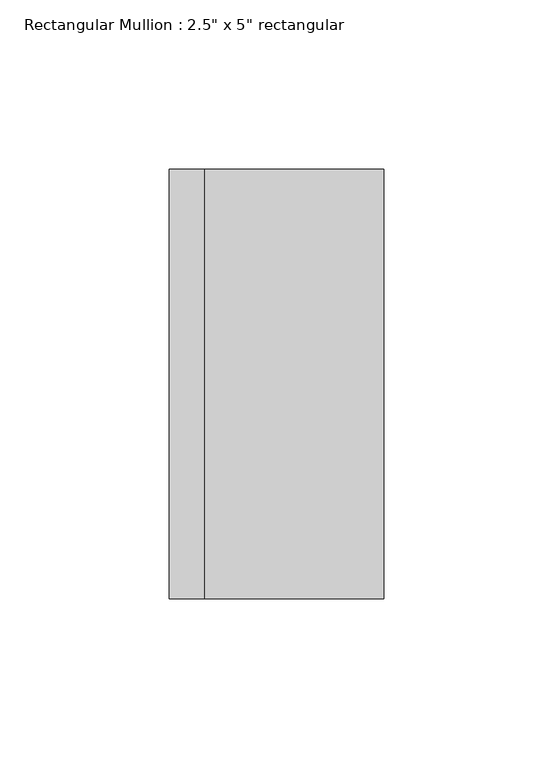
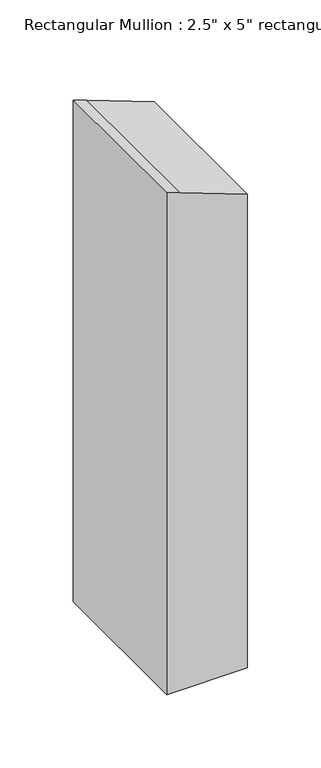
"""IFC4 building model written with IfcOpenShell, lengths in millimetres: member geometry."""

from ifc_helpers import new_model, si_unit, frame, origin, place, context, project, spatial, circle_curve, source, transform, mapped, element, save
from ifc_brep_helpers import plane_surface, cylinder_surface, advanced_brep


def member_3da98cf2(model_context):
    return source(origin(), model_context, "Body", "AdvancedBrep", [
        advanced_brep(
        [(31.75, 63.5, -473.2591752), (31.75, -63.5, -473.2591752), (-31.75, -63.5, -473.2591752), (-31.75, 63.5, -473.2591752), (-31.75, 63.5, -56.1643714), (-21.1659471, 63.5, -59.8686363), (31.75, 63.5, -79.5346581), (-31.75, -63.5, -56.1643714), (31.75, -63.5, -79.5346581), (-21.1659471, -63.5, -59.8686363)],
        [
            (0, 1),
            (1, 2),
            (2, 3),
            (3, 0),
            (4, 5, circle_curve(frame((-609.6, 63.5, -1724.2091752), z_axis=(0.0, 1.0, 0.0), x_axis=(0.0, 0.0, 1.0)), 1765.3)),
            (5, 6, circle_curve(frame((-609.6, 63.5, -1724.2091752), z_axis=(0.0, 1.0, 0.0), x_axis=(0.333333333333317, 0.0, 0.9428090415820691)), 1765.3)),
            (6, 0),
            (3, 4),
            (7, 4),
            (2, 7),
            (8, 9, circle_curve(frame((-609.6, -63.5, -1724.2091752), z_axis=(0.0, -1.0, 0.0), x_axis=(0.333333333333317, 0.0, 0.9428090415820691)), 1765.3)),
            (9, 7, circle_curve(frame((-609.6, -63.5, -1724.2091752), z_axis=(0.0, -1.0, 0.0), x_axis=(0.0, 0.0, 1.0)), 1765.3)),
            (1, 8),
            (6, 8),
            (5, 9),
        ],
        [
            plane_surface(frame((0.0, -70.9951583, -473.2591752), z_axis=(0.0, 0.0, -1.0), x_axis=(-1.0, 0.0, 0.0))),
            plane_surface(frame((31.75, 63.5, 0.0), z_axis=(0.0, 1.0, 0.0), x_axis=(0.0, 0.0, -1.0))),
            plane_surface(frame((-31.75, 63.5, 0.0), z_axis=(-1.0, 0.0, 0.0), x_axis=(0.0, 0.0, -1.0))),
            plane_surface(frame((-31.75, -63.5, 0.0), z_axis=(0.0, -1.0, 0.0), x_axis=(0.0, 0.0, -1.0))),
            plane_surface(frame((31.75, -63.5, 0.0), z_axis=(1.0, 0.0, 0.0), x_axis=(0.0, 0.0, -1.0))),
            cylinder_surface(frame((-609.6, 0.0, -1724.2091752), z_axis=(0.0, 1.0, 0.0), x_axis=(0.333333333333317, 0.0, 0.9428090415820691)), 1765.3),
            cylinder_surface(frame((-609.6, 0.0, -1724.2091752), z_axis=(0.0, 1.0, 0.0), x_axis=(0.0, 0.0, 1.0)), 1765.3),
        ],
        [
            (0, [[1, 2, 3, 4]]),
            (1, [[5, 6, 7, -4, 8]]),
            (2, [[9, -8, -3, 10]]),
            (3, [[11, 12, -10, -2, 13]]),
            (4, [[14, -13, -1, -7]]),
            (5, [[-6, 15, -11, -14]]),
            (6, [[-5, -9, -12, -15]]),
        ],
    ),
    ])


if __name__ == "__main__":
    model = new_model("IFC4")
    model_context = context("Model", 3, world=origin())
    ifc_project = project(units=[si_unit("LENGTHUNIT", "METRE", prefix="MILLI")], contexts=[model_context])
    site = spatial("IfcSite", under=ifc_project)
    building = spatial("IfcBuilding", under=site)
    placement = place(None, origin())
    member_shape = member_3da98cf2(model_context)
    element("IfcMember", 1, ObjectType="Rectangular Mullion : 2.5\" x 5\" rectangular", at=placement, inside=building, context=model_context, shape_type="MappedRepresentation", body=[
        mapped(member_shape, transform((0.0, 0.0, 0.0), x_axis=(1.0, 0.0, 0.0), y_axis=(0.0, 1.0, 0.0), z_axis=(0.0, 0.0, 1.0))),
    ])
    save(model, "model.ifc")
